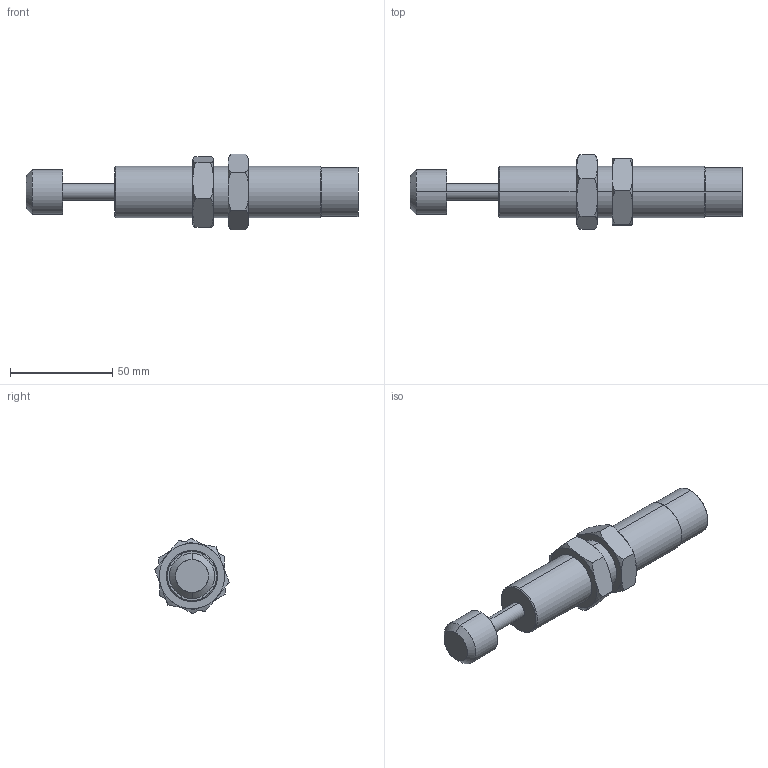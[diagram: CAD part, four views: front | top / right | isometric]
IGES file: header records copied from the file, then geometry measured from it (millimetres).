
Start section: SolidWorks IGES file using analytic representation for surfaces
Global section: file name: C:\Users\Sam Lin\Desktop\48\FSA-2525CD.IGS; native system: SolidWorks 2013; preprocessor: SolidWorks 2013; author: Sam Lin; date: 160317.153108; units: metre
Bounding box: 162.5 x 36.43 x 36.94 mm (x, y, z)
Surface area: 17873.4 mm2 (no closed solid volume)
Topology: 0 solids, 0 shells, 62 faces, 1160 edges, 1160 vertices
Faces by surface type: bspline 44, revolution 18
